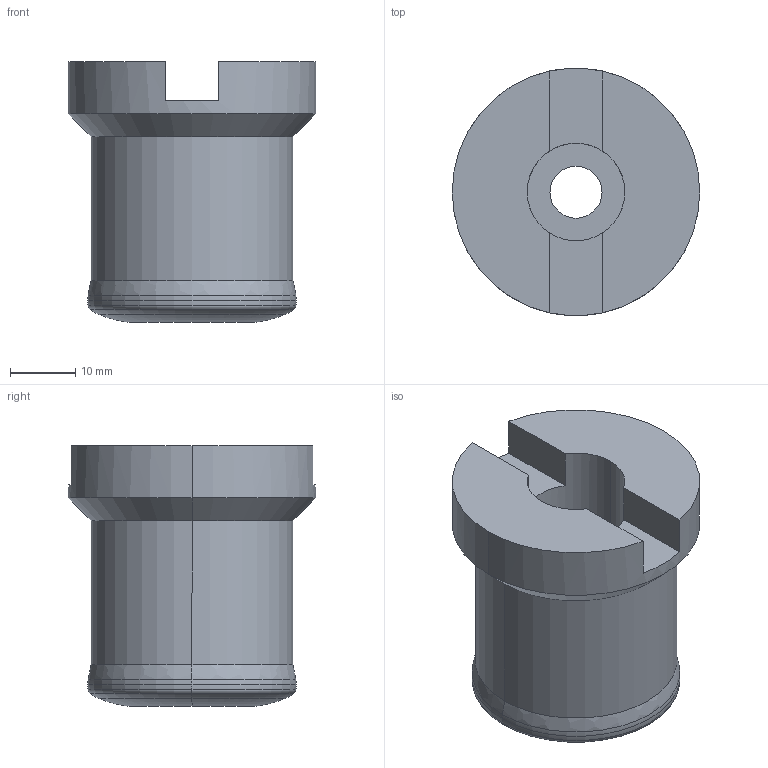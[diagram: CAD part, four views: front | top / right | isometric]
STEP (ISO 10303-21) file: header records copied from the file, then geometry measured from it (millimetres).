
FILE_DESCRIPTION(('STEP AP214'),'1');
FILE_NAME('cctmp_25F3FFE0-A9D8-42E3-B748-0B6DE2530D74_2020_10_01_10_30_56_0849..stp','2020-10-01T08:30:56',('Meusburger Georg GmbH & Co KG'),('CADClick - www.CADClick.com'),'Spatial InterOp 3D',' ','unknown authorization');
FILE_SCHEMA(('AUTOMOTIVE_DESIGN { 1 0 10303 214 1 1 1 1 }'));
Length unit declared in the file: millimetre
Products named in the file (1): WZT5136_09_32_3
Bounding box: 38 x 38 x 40 mm (x, y, z)
Volume: 27382.8 mm3; surface area: 7507.4 mm2
Topology: 1 solids, 1 shells, 40 faces, 90 edges, 52 vertices
Faces by surface type: torus 20, plane 10, cylinder 8, cone 2
Entity records: 1474 total; most frequent: DIRECTION 236, CARTESIAN_POINT 183, ORIENTED_EDGE 180, AXIS2_PLACEMENT_3D 105, EDGE_CURVE 90, CIRCLE 64, VERTEX_POINT 52, EDGE_LOOP 42
